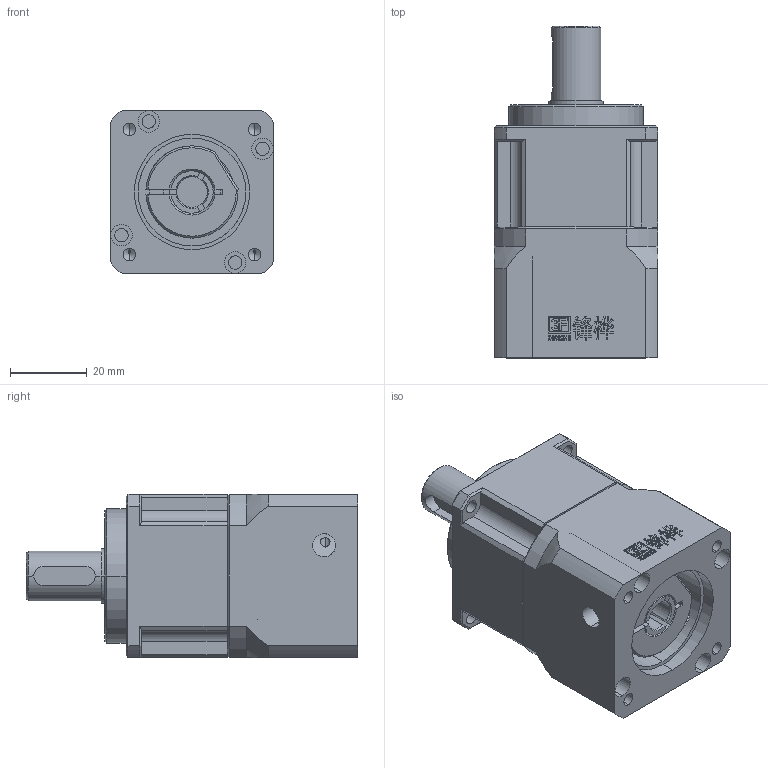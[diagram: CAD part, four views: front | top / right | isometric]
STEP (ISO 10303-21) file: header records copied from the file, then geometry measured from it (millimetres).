
FILE_DESCRIPTION (( 'STEP AP214' ), '1' );
FILE_NAME ('VRB042-L1-S2-P1 8-30-46-M4.STEP', '2021-04-24T06:27:48', ( 'User' ), ( 'china' ), 'SwSTEP 2.0', 'SolidWorks 2016', '' );
FILE_SCHEMA (( 'AUTOMOTIVE_DESIGN' ));
Length unit declared in the file: millimetre
Products named in the file (1): VRB042-L1-S2-P1 8-30-46-M4
Bounding box: 42.6 x 86.3 x 42.6 mm (x, y, z)
Volume: 95382.3 mm3; surface area: 28045.4 mm2
Topology: 4 solids, 4 shells, 884 faces, 2470 edges, 1629 vertices
Faces by surface type: plane 658, cylinder 114, bspline 60, cone 47, sphere 5
Entity records: 35583 total; most frequent: CARTESIAN_POINT 6221, ORIENTED_EDGE 4920, DIRECTION 4215, EDGE_CURVE 2460, LINE 1977, VECTOR 1977, VERTEX_POINT 1629, AXIS2_PLACEMENT_3D 1119
